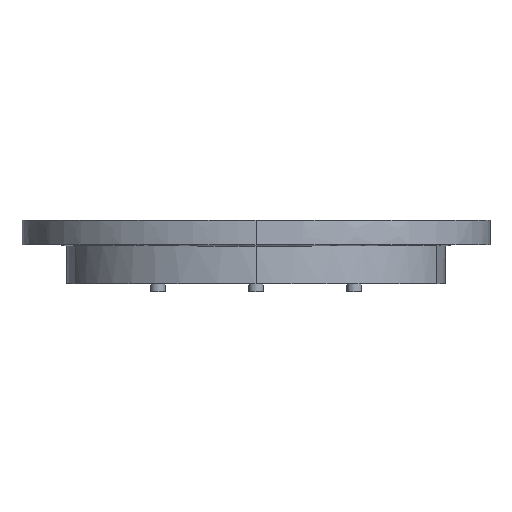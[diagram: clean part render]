
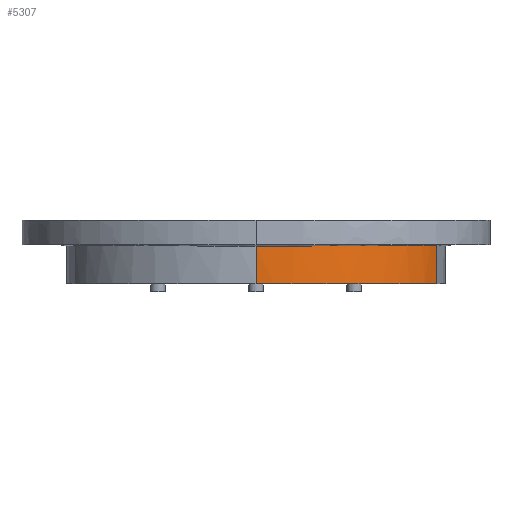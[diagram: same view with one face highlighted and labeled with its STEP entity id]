
A CAD part, front view. The second image highlights one B-rep face of the part: STEP entity #5307.
In plain terms, the highlighted free-form (B-spline) face has degree [3, 1] with [13, 2] control points.
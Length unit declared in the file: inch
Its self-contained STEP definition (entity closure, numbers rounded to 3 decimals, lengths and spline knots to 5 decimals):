
#366=B_SPLINE_CURVE_WITH_KNOTS('',3,(#10625,#10626,#10627,#10628,#10629,
#10630,#10631,#10632,#10633,#10634,#10635,#10636,#10637),.UNSPECIFIED.,
 .F.,.F.,(4,3,3,3,4),(-3.55165,-2.07023,0.,1.58425,
2.48176),.UNSPECIFIED.);
#371=B_SPLINE_CURVE_WITH_KNOTS('',3,(#10877,#10878,#10879,#10880,#10881,
#10882,#10883,#10884,#10885,#10886),.UNSPECIFIED.,.F.,.F.,(4,2,2,2,4),(-5.68501,
-4.46488,-3.28595,-1.48838,0.),.UNSPECIFIED.);
#534=B_SPLINE_SURFACE_WITH_KNOTS('',3,1,((#10849,#10850),(#10851,#10852),
(#10853,#10854),(#10855,#10856),(#10857,#10858),(#10859,#10860),(#10861,
#10862),(#10863,#10864),(#10865,#10866),(#10867,#10868),(#10869,#10870),
(#10871,#10872),(#10873,#10874)),.UNSPECIFIED.,.F.,.F.,.F.,(4,3,3,3,4),
(2,2),(-2.48176,-1.58425,0.,2.07023,3.55165),
(0.,1.81613),.UNSPECIFIED.);
#936=FACE_OUTER_BOUND('',#1266,.T.);
#1266=EDGE_LOOP('',(#4947,#4948,#4949,#4950));
#1696=LINE('',#10887,#2115);
#1697=LINE('',#10888,#2116);
#2115=VECTOR('',#6233,0.3937);
#2116=VECTOR('',#6234,0.3937);
#2634=VERTEX_POINT('',#10583);
#2638=VERTEX_POINT('',#10623);
#2667=VERTEX_POINT('',#10875);
#2668=VERTEX_POINT('',#10876);
#3394=EDGE_CURVE('',#2638,#2634,#366,.T.);
#3435=EDGE_CURVE('',#2667,#2668,#371,.T.);
#3436=EDGE_CURVE('',#2634,#2667,#1696,.T.);
#3437=EDGE_CURVE('',#2638,#2668,#1697,.T.);
#4947=ORIENTED_EDGE('',*,*,#3435,.F.);
#4948=ORIENTED_EDGE('',*,*,#3436,.F.);
#4949=ORIENTED_EDGE('',*,*,#3394,.F.);
#4950=ORIENTED_EDGE('',*,*,#3437,.T.);
#5307=ADVANCED_FACE('',(#936),#534,.T.);
#6233=DIRECTION('',(0.,0.,1.));
#6234=DIRECTION('',(0.,0.,1.));
#10583=CARTESIAN_POINT('',(0.,-1.6378,0.));
#10623=CARTESIAN_POINT('',(1.84657,-0.57829,0.));
#10625=CARTESIAN_POINT('Ctrl Pts',(1.84657,-0.57829,
0.));
#10626=CARTESIAN_POINT('Ctrl Pts',(1.7742,-0.73647,
0.));
#10627=CARTESIAN_POINT('Ctrl Pts',(1.67435,-0.88075,
0.));
#10628=CARTESIAN_POINT('Ctrl Pts',(1.55485,-1.00746,0.));
#10629=CARTESIAN_POINT('Ctrl Pts',(1.38786,-1.18455,0.));
#10630=CARTESIAN_POINT('Ctrl Pts',(1.17675,-1.33353,0.));
#10631=CARTESIAN_POINT('Ctrl Pts',(0.93325,-1.44234,
0.));
#10632=CARTESIAN_POINT('Ctrl Pts',(0.74692,-1.5256,
0.));
#10633=CARTESIAN_POINT('Ctrl Pts',(0.54854,-1.58224,
0.));
#10634=CARTESIAN_POINT('Ctrl Pts',(0.34613,-1.61228,
0.));
#10635=CARTESIAN_POINT('Ctrl Pts',(0.23146,-1.62931,0.));
#10636=CARTESIAN_POINT('Ctrl Pts',(0.11566,-1.63779,
0.));
#10637=CARTESIAN_POINT('Ctrl Pts',(0.,-1.6378,
0.));
#10849=CARTESIAN_POINT('Ctrl Pts',(0.,-1.6378,
0.));
#10850=CARTESIAN_POINT('Ctrl Pts',(0.,-1.6378,
0.71501));
#10851=CARTESIAN_POINT('Ctrl Pts',(0.11566,-1.63779,
0.));
#10852=CARTESIAN_POINT('Ctrl Pts',(0.11566,-1.63779,
0.71501));
#10853=CARTESIAN_POINT('Ctrl Pts',(0.23146,-1.62931,0.));
#10854=CARTESIAN_POINT('Ctrl Pts',(0.23146,-1.62931,0.71501));
#10855=CARTESIAN_POINT('Ctrl Pts',(0.34613,-1.61228,
0.));
#10856=CARTESIAN_POINT('Ctrl Pts',(0.34613,-1.61228,
0.71501));
#10857=CARTESIAN_POINT('Ctrl Pts',(0.54854,-1.58224,
0.));
#10858=CARTESIAN_POINT('Ctrl Pts',(0.54854,-1.58224,
0.71501));
#10859=CARTESIAN_POINT('Ctrl Pts',(0.74692,-1.5256,
0.));
#10860=CARTESIAN_POINT('Ctrl Pts',(0.74692,-1.5256,
0.71501));
#10861=CARTESIAN_POINT('Ctrl Pts',(0.93325,-1.44234,
0.));
#10862=CARTESIAN_POINT('Ctrl Pts',(0.93325,-1.44234,
0.71501));
#10863=CARTESIAN_POINT('Ctrl Pts',(1.17675,-1.33353,0.));
#10864=CARTESIAN_POINT('Ctrl Pts',(1.17675,-1.33353,0.71501));
#10865=CARTESIAN_POINT('Ctrl Pts',(1.38786,-1.18455,0.));
#10866=CARTESIAN_POINT('Ctrl Pts',(1.38786,-1.18455,0.71501));
#10867=CARTESIAN_POINT('Ctrl Pts',(1.55485,-1.00746,0.));
#10868=CARTESIAN_POINT('Ctrl Pts',(1.55485,-1.00746,0.71501));
#10869=CARTESIAN_POINT('Ctrl Pts',(1.67435,-0.88075,
0.));
#10870=CARTESIAN_POINT('Ctrl Pts',(1.67435,-0.88075,
0.71501));
#10871=CARTESIAN_POINT('Ctrl Pts',(1.7742,-0.73647,
0.));
#10872=CARTESIAN_POINT('Ctrl Pts',(1.7742,-0.73647,
0.71501));
#10873=CARTESIAN_POINT('Ctrl Pts',(1.84657,-0.57829,
0.));
#10874=CARTESIAN_POINT('Ctrl Pts',(1.84657,-0.57829,
0.71501));
#10875=CARTESIAN_POINT('',(0.,-1.6378,0.38623));
#10876=CARTESIAN_POINT('',(1.84657,-0.57829,0.39373));
#10877=CARTESIAN_POINT('Ctrl Pts',(0.,-1.6378,
0.38623));
#10878=CARTESIAN_POINT('Ctrl Pts',(0.16113,-1.63778,
0.38623));
#10879=CARTESIAN_POINT('Ctrl Pts',(0.32236,-1.62133,
0.38643));
#10880=CARTESIAN_POINT('Ctrl Pts',(0.63233,-1.55657,0.38716));
#10881=CARTESIAN_POINT('Ctrl Pts',(0.78147,-1.50931,
0.38766));
#10882=CARTESIAN_POINT('Ctrl Pts',(1.14093,-1.35076,0.38919));
#10883=CARTESIAN_POINT('Ctrl Pts',(1.34188,-1.21905,0.39034));
#10884=CARTESIAN_POINT('Ctrl Pts',(1.64973,-0.91556,
0.3923));
#10885=CARTESIAN_POINT('Ctrl Pts',(1.76531,-0.75591,0.39313));
#10886=CARTESIAN_POINT('Ctrl Pts',(1.84657,-0.57829,
0.39373));
#10887=CARTESIAN_POINT('',(0.,-1.6378,0.));
#10888=CARTESIAN_POINT('',(1.84657,-0.57829,0.));
